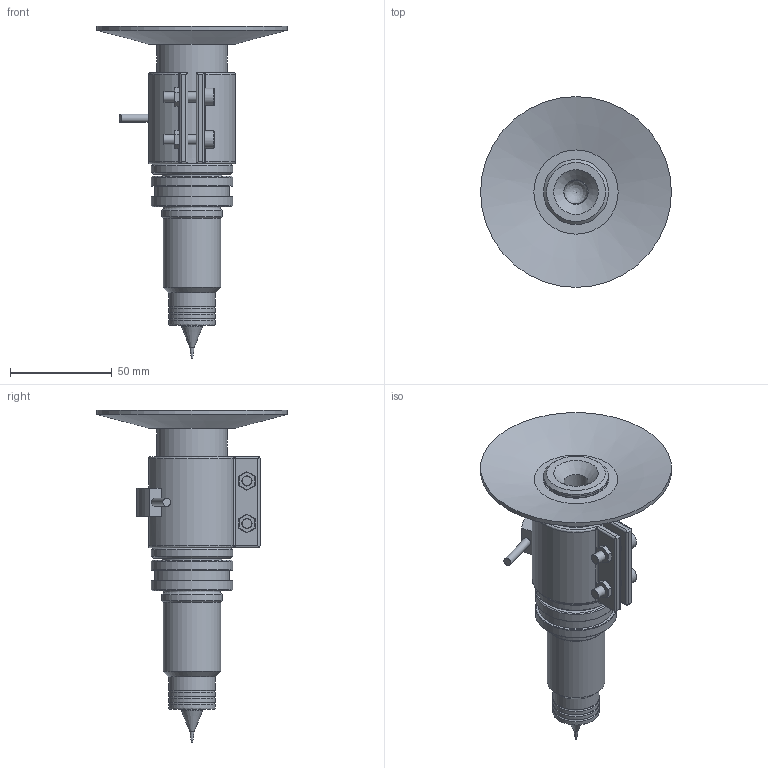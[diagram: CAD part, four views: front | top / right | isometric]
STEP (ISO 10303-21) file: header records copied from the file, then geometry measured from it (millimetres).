
FILE_DESCRIPTION(('STEP AP214'),'1');
FILE_NAME('IPS300-A.stp','2018-06-14T10:07:05',(' '),(' '),'Spatial InterOp 3D',' ',' ');
FILE_SCHEMA(('AUTOMOTIVE_DESIGN { 1 0 10303 214 1 1 1 1 }'));
Length unit declared in the file: millimetre
Products named in the file (1): 1
Bounding box: 94 x 94 x 163.54 mm (x, y, z)
Volume: 139891.3 mm3; surface area: 62743.7 mm2
Topology: 9 solids, 9 shells, 213 faces, 452 edges, 271 vertices
Faces by surface type: plane 95, cylinder 58, cone 37, revolution 10, torus 9, bspline 4
Full cylindrical faces by diameter (mm): 4 x1, 4.2 x2, 4.55 x1, 5 x3, 5.5 x4, 6.6 x1, 7 x2, 8.5 x2, 10.7 x1, 10.72 x1, 22 x2, 23 x3, 28.5 x1, 29.8 x1, 30 x3, 30.3 x1, 32 x3, 37 x1, 40 x3, 94 x1
Entity records: 7656 total; most frequent: CARTESIAN_POINT 1724, DIRECTION 911, ORIENTED_EDGE 680, AXIS2_PLACEMENT_3D 366, EDGE_CURVE 340, EDGE_LOOP 337, FACE_OUTER_BOUND 264, VERTEX_POINT 256
